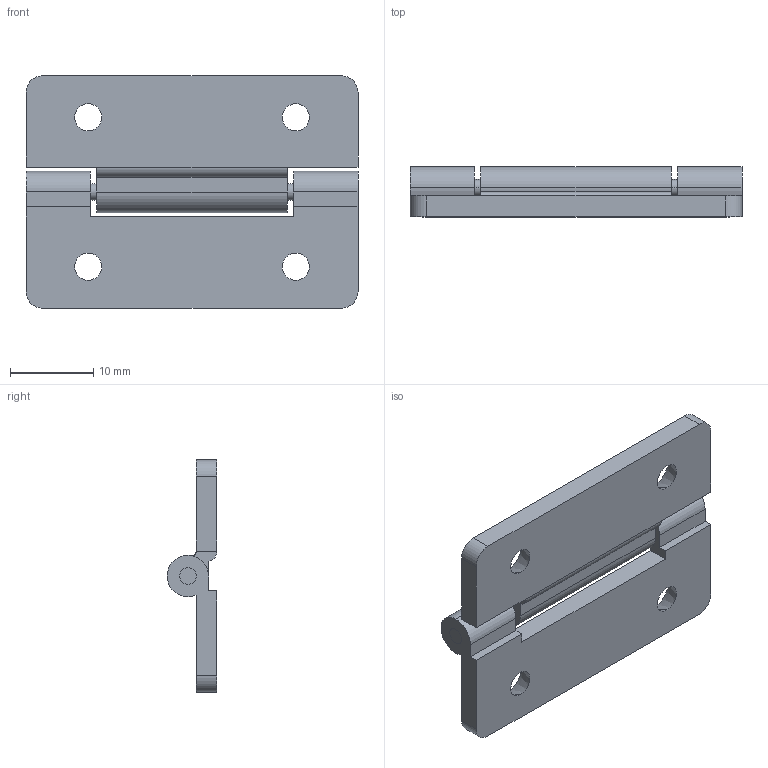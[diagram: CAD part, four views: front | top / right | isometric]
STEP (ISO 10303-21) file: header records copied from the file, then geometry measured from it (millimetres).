
FILE_DESCRIPTION (( 'STEP AP203' ), '1' );
FILE_NAME ('XG11-026-1.STEP', '2023-12-04T08:15:22', ( '' ), ( '' ), 'SwSTEP 2.0', 'SolidWorks 2020', '' );
FILE_SCHEMA (( 'CONFIG_CONTROL_DESIGN' ));
Length unit declared in the file: millimetre
Products named in the file (4): 錨璃2; 錨璃3; XG11-026-1; 錨璃1
Assembly tree (3 placements, depth 2):
  XG11-026-1
    錨璃1
    錨璃2
    錨璃3
Bounding box: 40 x 6 x 28 mm (x, y, z)
Volume: 2913.7 mm3; surface area: 3450.9 mm2
Topology: 3 solids, 3 shells, 56 faces, 150 edges, 100 vertices
Faces by surface type: cylinder 24, plane 24, cone 8
Entity records: 2220 total; most frequent: DIRECTION 338, CARTESIAN_POINT 312, ORIENTED_EDGE 300, EDGE_CURVE 150, AXIS2_PLACEMENT_3D 126, VERTEX_POINT 100, LINE 86, VECTOR 86
